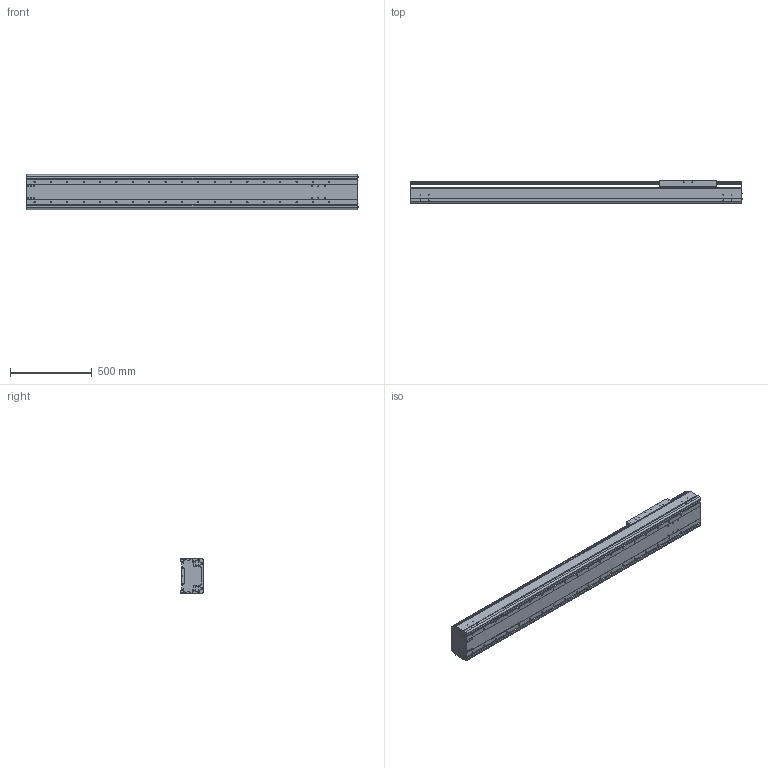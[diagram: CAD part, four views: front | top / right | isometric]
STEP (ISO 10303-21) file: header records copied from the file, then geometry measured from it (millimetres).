
FILE_DESCRIPTION((''),'2;1');
FILE_NAME('BE60J-ST-L_B-E5_IGS_PRT','2017-06-18T',(' '),(''),'PRO/ENGINEER BY PARAMETRIC TECHNOLOGY CORPORATION, 2015030','PRO/ENGINEER BY PARAMETRIC TECHNOLOGY CORPORATION, 2015030','');
FILE_SCHEMA(('CONFIG_CONTROL_DESIGN'));
Length unit declared in the file: millimetre
Products named in the file (1): BE60J-ST-L_B-E5_IGS_PRT
Bounding box: 2027.4 x 140 x 214 mm (x, y, z)
Volume: 15981810.1 mm3; surface area: 4218890.6 mm2
Topology: 2 solids, 32 shells, 1167 faces, 3071 edges, 1978 vertices
Faces by surface type: plane 539, cylinder 520, cone 60, torus 24, sphere 24
Entity records: 36369 total; most frequent: CARTESIAN_POINT 6770, DIRECTION 6362, ORIENTED_EDGE 5912, EDGE_CURVE 3012, AXIS2_PLACEMENT_3D 2300, VERTEX_POINT 1976, VECTOR 1762, LINE 1762
